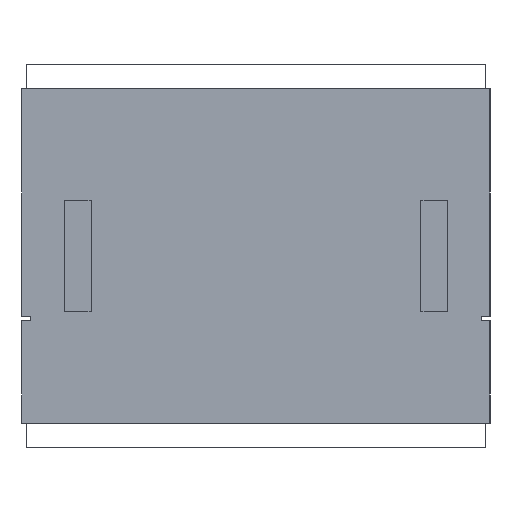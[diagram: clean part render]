
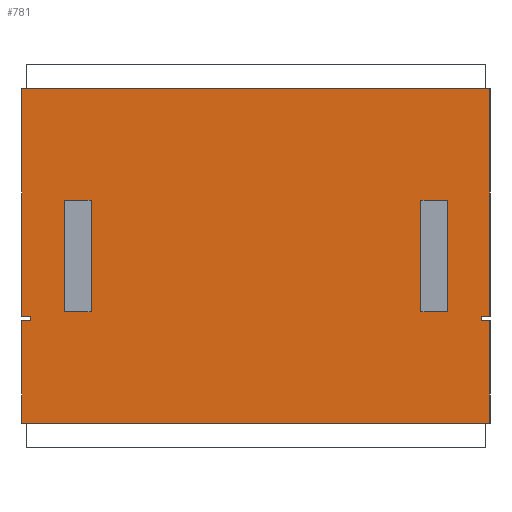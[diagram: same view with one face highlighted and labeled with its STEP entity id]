
A CAD part, left-side view. The second image highlights one B-rep face of the part: STEP entity #781.
In plain terms, the highlighted planar face has unit normal (-1, 0, 0).
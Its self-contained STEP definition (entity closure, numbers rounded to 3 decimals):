
#47=FACE_OUTER_BOUND('',#93,.T.);
#93=EDGE_LOOP('',(#582,#583,#584,#585,#586,#587,#588,#589,#590,#591,#592,
#593));
#126=LINE('',#1090,#234);
#130=LINE('',#1098,#238);
#133=LINE('',#1104,#241);
#136=LINE('',#1111,#244);
#140=LINE('',#1119,#248);
#143=LINE('',#1125,#251);
#146=LINE('',#1131,#254);
#155=LINE('',#1147,#263);
#156=LINE('',#1150,#264);
#158=LINE('',#1153,#266);
#160=LINE('',#1157,#268);
#161=LINE('',#1159,#269);
#234=VECTOR('',#888,10.);
#238=VECTOR('',#894,10.);
#241=VECTOR('',#899,10.);
#244=VECTOR('',#904,10.);
#248=VECTOR('',#910,10.);
#251=VECTOR('',#915,10.);
#254=VECTOR('',#920,10.);
#263=VECTOR('',#933,10.);
#264=VECTOR('',#936,10.);
#266=VECTOR('',#940,10.);
#268=VECTOR('',#944,10.);
#269=VECTOR('',#947,10.);
#342=VERTEX_POINT('',#1088);
#343=VERTEX_POINT('',#1089);
#346=VERTEX_POINT('',#1097);
#348=VERTEX_POINT('',#1103);
#350=VERTEX_POINT('',#1109);
#351=VERTEX_POINT('',#1110);
#354=VERTEX_POINT('',#1118);
#356=VERTEX_POINT('',#1124);
#358=VERTEX_POINT('',#1130);
#363=VERTEX_POINT('',#1145);
#364=VERTEX_POINT('',#1149);
#365=VERTEX_POINT('',#1155);
#414=EDGE_CURVE('',#342,#343,#126,.T.);
#418=EDGE_CURVE('',#346,#342,#130,.T.);
#421=EDGE_CURVE('',#343,#348,#133,.T.);
#424=EDGE_CURVE('',#350,#351,#136,.T.);
#428=EDGE_CURVE('',#354,#350,#140,.T.);
#431=EDGE_CURVE('',#356,#354,#143,.T.);
#434=EDGE_CURVE('',#358,#346,#146,.T.);
#443=EDGE_CURVE('',#351,#363,#155,.T.);
#444=EDGE_CURVE('',#364,#356,#156,.T.);
#446=EDGE_CURVE('',#363,#358,#158,.T.);
#448=EDGE_CURVE('',#348,#365,#160,.T.);
#449=EDGE_CURVE('',#365,#364,#161,.T.);
#582=ORIENTED_EDGE('',*,*,#421,.T.);
#583=ORIENTED_EDGE('',*,*,#448,.T.);
#584=ORIENTED_EDGE('',*,*,#449,.T.);
#585=ORIENTED_EDGE('',*,*,#444,.T.);
#586=ORIENTED_EDGE('',*,*,#431,.T.);
#587=ORIENTED_EDGE('',*,*,#428,.T.);
#588=ORIENTED_EDGE('',*,*,#424,.T.);
#589=ORIENTED_EDGE('',*,*,#443,.T.);
#590=ORIENTED_EDGE('',*,*,#446,.T.);
#591=ORIENTED_EDGE('',*,*,#434,.T.);
#592=ORIENTED_EDGE('',*,*,#418,.T.);
#593=ORIENTED_EDGE('',*,*,#414,.T.);
#735=PLANE('',#851);
#781=ADVANCED_FACE('',(#47),#735,.F.);
#851=AXIS2_PLACEMENT_3D('',#1160,#948,#949);
#888=DIRECTION('',(0.,0.,1.));
#894=DIRECTION('',(0.,1.,0.));
#899=DIRECTION('',(0.,-1.,0.));
#904=DIRECTION('',(0.,1.,0.));
#910=DIRECTION('',(0.,0.,-1.));
#915=DIRECTION('',(0.,-1.,0.));
#920=DIRECTION('',(0.,0.,1.));
#933=DIRECTION('',(0.,0.,-1.));
#936=DIRECTION('',(0.,0.,-1.));
#940=DIRECTION('',(0.,-1.,0.));
#944=DIRECTION('',(0.,0.,1.));
#947=DIRECTION('',(0.,1.,0.));
#948=DIRECTION('center_axis',(1.,0.,0.));
#949=DIRECTION('ref_axis',(0.,0.,-1.));
#1088=CARTESIAN_POINT('',(0.,-50.5,-14.5));
#1089=CARTESIAN_POINT('',(0.,-50.5,-13.5));
#1090=CARTESIAN_POINT('',(0.,-50.5,-7.25));
#1097=CARTESIAN_POINT('',(0.,-52.5,-14.5));
#1098=CARTESIAN_POINT('',(0.,-26.25,-14.5));
#1103=CARTESIAN_POINT('',(0.,-52.5,-13.5));
#1104=CARTESIAN_POINT('',(0.,-25.25,-13.5));
#1109=CARTESIAN_POINT('',(0.,50.5,-14.5));
#1110=CARTESIAN_POINT('',(0.,52.5,-14.5));
#1111=CARTESIAN_POINT('',(0.,25.25,-14.5));
#1118=CARTESIAN_POINT('',(0.,50.5,-13.5));
#1119=CARTESIAN_POINT('',(0.,50.5,-6.75));
#1124=CARTESIAN_POINT('',(0.,52.5,-13.5));
#1125=CARTESIAN_POINT('',(0.,26.25,-13.5));
#1130=CARTESIAN_POINT('',(0.,-52.5,-37.5));
#1131=CARTESIAN_POINT('',(0.,-52.5,-37.5));
#1145=CARTESIAN_POINT('',(0.,52.5,-37.5));
#1147=CARTESIAN_POINT('',(0.,52.5,37.5));
#1149=CARTESIAN_POINT('',(0.,52.5,37.5));
#1150=CARTESIAN_POINT('',(0.,52.5,37.5));
#1153=CARTESIAN_POINT('',(0.,52.5,-37.5));
#1155=CARTESIAN_POINT('',(0.,-52.5,37.5));
#1157=CARTESIAN_POINT('',(0.,-52.5,-37.5));
#1159=CARTESIAN_POINT('',(0.,-52.5,37.5));
#1160=CARTESIAN_POINT('Origin',(0.,0.,0.));
